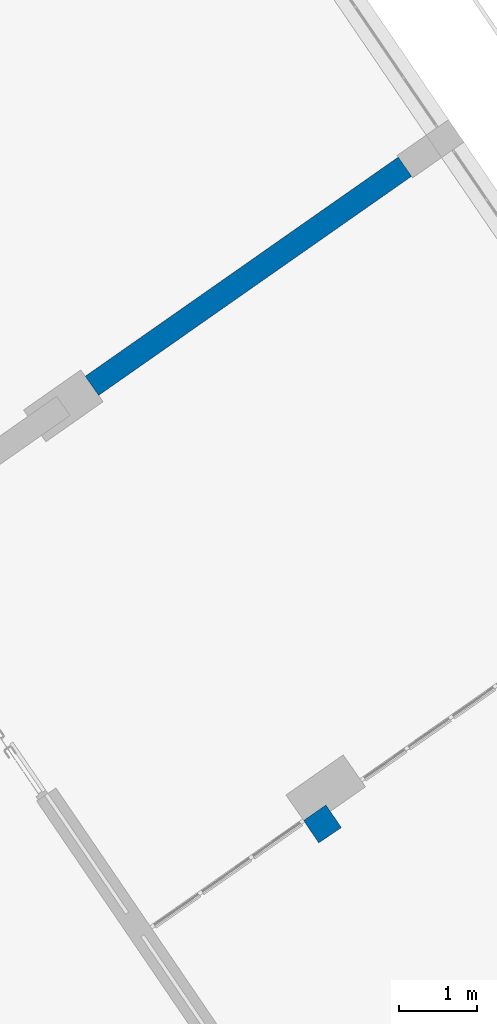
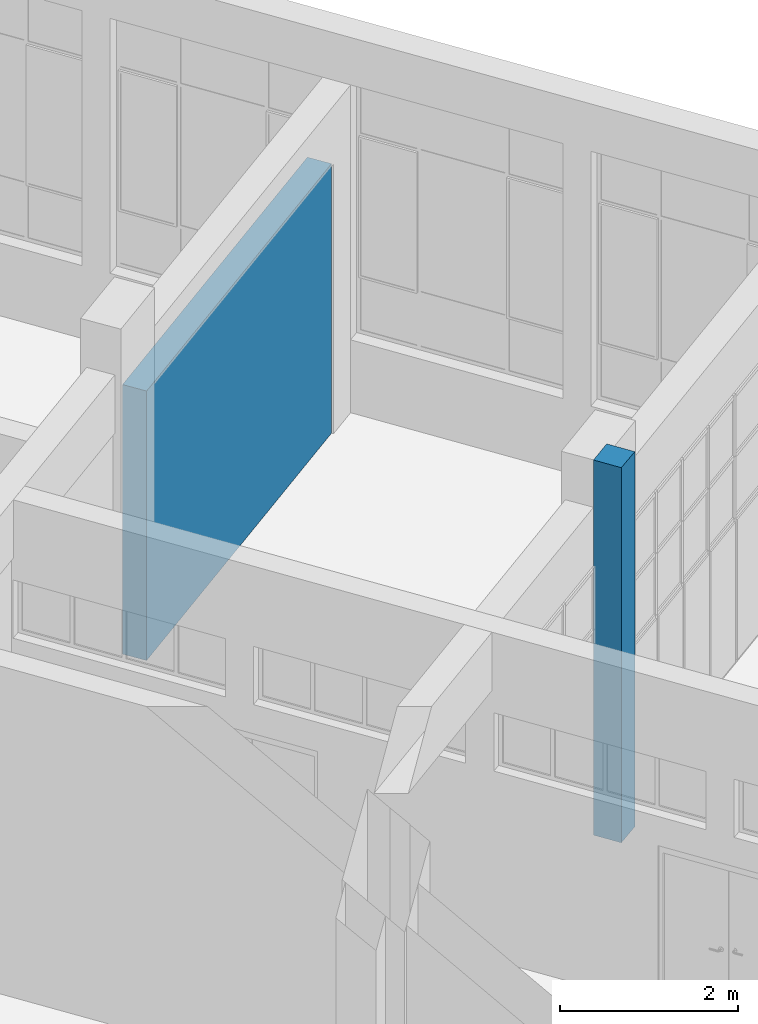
# One storey, part 84 of 157: 2 walls.
"""IFC2X3 building model written with IfcOpenShell, lengths in millimetres."""

from ifc_helpers import new_model, entity, si_unit, converted_unit, derived_unit, direction, frame, frame_2d, origin, place, context, subcontext, project, spatial, polyline, rectangle, outline, extrude, material, layer, layer_set, layer_usage, type_object, element, save


model = new_model("IFC2X3")

# Units and contexts
model_context = context("Model", 3, precision=0.01, world=origin(), true_north=direction((6.123031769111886e-17, 1.0)))
body_context = subcontext(model_context, "Body", "Model", "MODEL_VIEW")
ifc_project = project(units=[si_unit("LENGTHUNIT", "METRE", prefix="MILLI"), si_unit("AREAUNIT", "SQUARE_METRE"), si_unit("VOLUMEUNIT", "CUBIC_METRE"), converted_unit("PLANEANGLEUNIT", "DEGREE", entity("IfcRatioMeasure", 0.017453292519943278), si_unit("PLANEANGLEUNIT", "RADIAN"), dimensions=[0, 0, 0, 0, 0, 0, 0]), si_unit("MASSUNIT", "GRAM", prefix="KILO"), derived_unit("MASSDENSITYUNIT", [(si_unit("MASSUNIT", "GRAM", prefix="KILO"), 1), (si_unit("LENGTHUNIT", "METRE"), -3)]), derived_unit("MOMENTOFINERTIAUNIT", [(si_unit("LENGTHUNIT", "METRE"), 4)]), si_unit("TIMEUNIT", "SECOND"), si_unit("FREQUENCYUNIT", "HERTZ"), si_unit("THERMODYNAMICTEMPERATUREUNIT", "DEGREE_CELSIUS"), derived_unit("THERMALTRANSMITTANCEUNIT", [(si_unit("MASSUNIT", "GRAM", prefix="KILO"), 1), (si_unit("THERMODYNAMICTEMPERATUREUNIT", "KELVIN"), -1), (si_unit("TIMEUNIT", "SECOND"), -3)]), derived_unit("THERMALCONDUCTANCEUNIT", [(si_unit("MASSUNIT", "GRAM", prefix="KILO"), 1), (si_unit("LENGTHUNIT", "METRE"), 1), (si_unit("THERMODYNAMICTEMPERATUREUNIT", "KELVIN"), -1), (si_unit("TIMEUNIT", "SECOND"), -3)]), derived_unit("VOLUMETRICFLOWRATEUNIT", [(si_unit("LENGTHUNIT", "METRE"), 3), (si_unit("TIMEUNIT", "SECOND"), -1)]), derived_unit("MASSFLOWRATEUNIT", [(si_unit("MASSUNIT", "GRAM", prefix="KILO"), 1), (si_unit("TIMEUNIT", "SECOND"), -1)]), derived_unit("ROTATIONALFREQUENCYUNIT", [(si_unit("TIMEUNIT", "SECOND"), -1)]), si_unit("ELECTRICCURRENTUNIT", "AMPERE"), si_unit("ELECTRICVOLTAGEUNIT", "VOLT"), si_unit("POWERUNIT", "WATT"), converted_unit("FORCEUNIT", "KIP", entity("IfcRatioMeasure", 2.088543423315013e-05), si_unit("FORCEUNIT", "NEWTON"), dimensions=[1, 1, -2, 0, 0, 0, 0]), si_unit("ILLUMINANCEUNIT", "LUX"), si_unit("LUMINOUSFLUXUNIT", "LUMEN"), si_unit("LUMINOUSINTENSITYUNIT", "CANDELA"), derived_unit("USERDEFINED", [(si_unit("MASSUNIT", "GRAM", prefix="KILO"), -1), (si_unit("LENGTHUNIT", "METRE"), -2), (si_unit("TIMEUNIT", "SECOND"), 3), (si_unit("LUMINOUSFLUXUNIT", "LUMEN"), 1)]), derived_unit("USERDEFINED", [(si_unit("MASSUNIT", "GRAM", prefix="KILO"), 1), (si_unit("LENGTHUNIT", "METRE"), 3), (si_unit("TIMEUNIT", "SECOND"), -3), (si_unit("ELECTRICCURRENTUNIT", "AMPERE"), -2)]), derived_unit("USERDEFINED", [(si_unit("LENGTHUNIT", "METRE"), 2), (si_unit("TIMEUNIT", "SECOND"), -2)]), derived_unit("SOUNDPOWERUNIT", [(si_unit("MASSUNIT", "GRAM", prefix="KILO"), 1), (si_unit("LENGTHUNIT", "METRE"), 2), (si_unit("TIMEUNIT", "SECOND"), -3)]), derived_unit("SOUNDPRESSUREUNIT", [(si_unit("MASSUNIT", "GRAM", prefix="KILO"), 1), (si_unit("LENGTHUNIT", "METRE"), -1), (si_unit("TIMEUNIT", "SECOND"), -2)]), derived_unit("LINEARVELOCITYUNIT", [(si_unit("LENGTHUNIT", "METRE"), 1), (si_unit("TIMEUNIT", "SECOND"), -1)]), si_unit("PRESSUREUNIT", "PASCAL"), derived_unit("USERDEFINED", [(si_unit("LENGTHUNIT", "METRE"), -2), (si_unit("MASSUNIT", "GRAM", prefix="KILO"), 1), (si_unit("TIMEUNIT", "SECOND"), -2)]), derived_unit("LINEARFORCEUNIT", [(si_unit("MASSUNIT", "GRAM", prefix="KILO"), 1), (si_unit("LENGTHUNIT", "METRE"), 1), (si_unit("TIMEUNIT", "SECOND"), -2), (si_unit("LENGTHUNIT", "METRE"), -1)]), derived_unit("PLANARFORCEUNIT", [(si_unit("MASSUNIT", "GRAM", prefix="KILO"), 1), (si_unit("LENGTHUNIT", "METRE"), 1), (si_unit("TIMEUNIT", "SECOND"), -2), (si_unit("LENGTHUNIT", "METRE"), -2)]), derived_unit("SPECIFICHEATCAPACITYUNIT", [(si_unit("LENGTHUNIT", "METRE"), 2), (si_unit("TIMEUNIT", "SECOND"), -2), (si_unit("THERMODYNAMICTEMPERATUREUNIT", "KELVIN"), -1)]), derived_unit("VAPORPERMEABILITYUNIT", [(si_unit("TIMEUNIT", "SECOND"), 1), (si_unit("LENGTHUNIT", "METRE"), -1)]), derived_unit("DYNAMICVISCOSITYUNIT", [(si_unit("MASSUNIT", "GRAM", prefix="KILO"), 1), (si_unit("LENGTHUNIT", "METRE"), -1), (si_unit("TIMEUNIT", "SECOND"), -1)]), derived_unit("THERMALEXPANSIONCOEFFICIENTUNIT", [(si_unit("THERMODYNAMICTEMPERATUREUNIT", "KELVIN"), -1)])], contexts=[model_context])

# Site, building, storey
site_placement = place(None, frame((0.0, 0.0, 0.0), z_axis=(0.0, 0.0, 1.0), x_axis=(0.8191520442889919, 0.5735764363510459, 0.0)))
site = spatial("IfcSite", under=ifc_project, at=site_placement, Name="Default", CompositionType="ELEMENT")
building_placement = place(site_placement, origin())
building = spatial("IfcBuilding", under=site, at=building_placement, CompositionType="ELEMENT")
storey_placement = place(building_placement, origin())
storey = spatial("IfcBuildingStorey", under=building, at=storey_placement, Name="1.EG +0.00", CompositionType="ELEMENT", Elevation=-4.331468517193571e-12)

# Walls
ifc_material = material(Name="Analytical Wall Surface_CJC")
ifc_layer_1 = layer(ifc_material, 300.0)
ifc_layer_set_1 = layer_set([ifc_layer_1], Name="Basic Wall:Wand_Innen_30")
ifc_layer_usage_1 = layer_usage(ifc_layer_set_1, "AXIS2", "NEGATIVE", 150.0)
wall_type_1 = type_object("IfcWallType", Name="Basic Wall:Wand_Innen_30", PredefinedType="STANDARD", material=ifc_layer_set_1)
wall_1_placement = place(storey_placement, frame((-205937.55319387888, 85396.35891435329, 0.0), z_axis=(0.0, 0.0, 1.0), x_axis=(-1.0, 0.0, 0.0)))
element("IfcWallStandardCase", 1, at=wall_1_placement, inside=storey, type_object=wall_type_1, material=ifc_layer_usage_1, Name="Basic Wall:Wand_Innen_30", ObjectType="Basic Wall:Wand_Innen_30", context=body_context, shape_type="SweptSolid", body=[
    extrude(rectangle(XDim=4920.486186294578, YDim=300.00000000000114, at=frame_2d((2460.243093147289, -1.5916157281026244e-12), x_axis=(-1.0, 0.0))), origin(), (0.0, 0.0, 1.0), 3700.0000000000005),
])
ifc_layer_2 = layer(ifc_material, 350.0)
ifc_layer_set_2 = layer_set([ifc_layer_2], Name="Basic Wall:Wand_Innen_35")
ifc_layer_usage_2 = layer_usage(ifc_layer_set_2, "AXIS2", "NEGATIVE", 175.0)
wall_type_2 = type_object("IfcWallType", Name="Basic Wall:Wand_Innen_35", PredefinedType="STANDARD", material=ifc_layer_set_2)
wall_2_placement = place(storey_placement, frame((-211665.79650782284, 78896.3589143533, 0.0), z_axis=(0.0, 0.0, 1.0), x_axis=(0.012729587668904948, 0.9999189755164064, 0.0)))
element("IfcWallStandardCase", 2, at=wall_2_placement, inside=storey, type_object=wall_type_2, material=ifc_layer_usage_2, Name="Basic Wall:Wand_Innen_35", ObjectType="Basic Wall:Wand_Innen_35", context=body_context, shape_type="SweptSolid", body=[
    extrude(outline(polyline([(351.7700329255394, -175.0), (347.3389082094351, 173.0682801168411), (347.3143162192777, 175.0), (0.0, 175.0), (0.0, -175.0), (251.7619298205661, -175.0), (351.7700329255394, -175.0)])), origin(), (0.0, 0.0, 1.0), 5150.000000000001),
])

save(model, "model.ifc")
